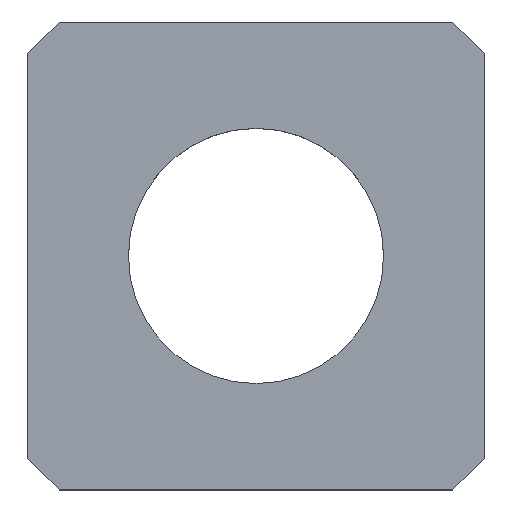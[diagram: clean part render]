
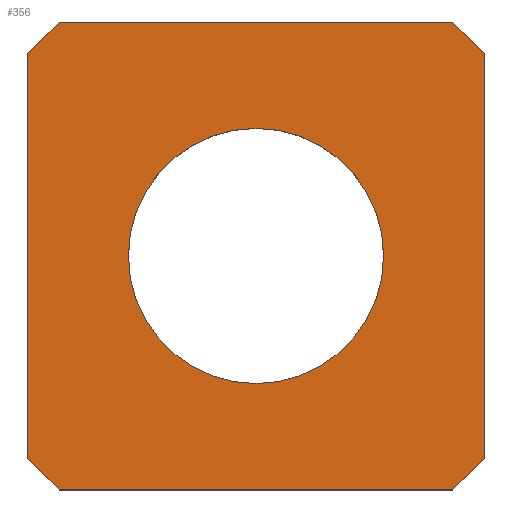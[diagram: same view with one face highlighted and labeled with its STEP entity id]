
A CAD part, top view. The second image highlights one B-rep face of the part: STEP entity #356.
In plain terms, the highlighted planar face has unit normal (0, 0, 1).
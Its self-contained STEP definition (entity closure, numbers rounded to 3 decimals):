
#11 = VECTOR ( 'NONE', #801, 1000. ) ;
#12 = VERTEX_POINT ( 'NONE', #57 ) ;
#14 = EDGE_CURVE ( 'NONE', #789, #930, #994, .T. ) ;
#43 = CARTESIAN_POINT ( 'NONE',  ( -20.25, 20.25, 6.5 ) ) ;
#51 = CARTESIAN_POINT ( 'NONE',  ( -18.5, 22., 6.5 ) ) ;
#55 = LINE ( 'NONE', #43, #458 ) ;
#57 = CARTESIAN_POINT ( 'NONE',  ( -18.5, -22., 6.5 ) ) ;
#81 = DIRECTION ( 'NONE',  ( 1., 0., 0. ) ) ;
#100 = DIRECTION ( 'NONE',  ( 0., 0., 1. ) ) ;
#111 = CARTESIAN_POINT ( 'NONE',  ( -21.5, 22., 6.5 ) ) ;
#118 = DIRECTION ( 'NONE',  ( -1., 0., 0. ) ) ;
#133 = VECTOR ( 'NONE', #253, 1000. ) ;
#140 = CARTESIAN_POINT ( 'NONE',  ( 21.5, -19., 6.5 ) ) ;
#164 = LINE ( 'NONE', #418, #133 ) ;
#172 = DIRECTION ( 'NONE',  ( 1., 0., 0. ) ) ;
#177 = CARTESIAN_POINT ( 'NONE',  ( 20.25, -20.25, 6.5 ) ) ;
#192 = LINE ( 'NONE', #851, #849 ) ;
#197 = CIRCLE ( 'NONE', #979, 12. ) ;
#204 = CARTESIAN_POINT ( 'NONE',  ( 0., 0., 6.5 ) ) ;
#225 = ORIENTED_EDGE ( 'NONE', *, *, #283, .T. ) ;
#246 = EDGE_CURVE ( 'NONE', #930, #789, #197, .T. ) ;
#253 = DIRECTION ( 'NONE',  ( 0., 1., 0. ) ) ;
#269 = DIRECTION ( 'NONE',  ( 0., -1., 0. ) ) ;
#275 = EDGE_CURVE ( 'NONE', #857, #451, #932, .T. ) ;
#283 = EDGE_CURVE ( 'NONE', #1053, #918, #999, .T. ) ;
#287 = DIRECTION ( 'NONE',  ( 0., 0., 1. ) ) ;
#295 = VECTOR ( 'NONE', #715, 1000. ) ;
#304 = EDGE_CURVE ( 'NONE', #534, #390, #192, .T. ) ;
#320 = CARTESIAN_POINT ( 'NONE',  ( 18.5, -22., 6.5 ) ) ;
#339 = EDGE_CURVE ( 'NONE', #390, #1053, #55, .T. ) ;
#348 = AXIS2_PLACEMENT_3D ( 'NONE', #861, #287, #450 ) ;
#356 = ADVANCED_FACE ( 'NONE', ( #455, #696 ), #436, .T. ) ;
#382 = CARTESIAN_POINT ( 'NONE',  ( 18.5, 22., 6.5 ) ) ;
#390 = VERTEX_POINT ( 'NONE', #51 ) ;
#418 = CARTESIAN_POINT ( 'NONE',  ( 21.5, 22., 6.5 ) ) ;
#430 = ORIENTED_EDGE ( 'NONE', *, *, #767, .T. ) ;
#436 = PLANE ( 'NONE',  #955 ) ;
#437 = ORIENTED_EDGE ( 'NONE', *, *, #14, .F. ) ;
#446 = VECTOR ( 'NONE', #269, 1000. ) ;
#448 = DIRECTION ( 'NONE',  ( 1., 0., 0. ) ) ;
#449 = CARTESIAN_POINT ( 'NONE',  ( 12., 0., 6.5 ) ) ;
#450 = DIRECTION ( 'NONE',  ( 1., 0., 0. ) ) ;
#451 = VERTEX_POINT ( 'NONE', #140 ) ;
#455 = FACE_OUTER_BOUND ( 'NONE', #611, .T. ) ;
#458 = VECTOR ( 'NONE', #535, 1000. ) ;
#479 = CARTESIAN_POINT ( 'NONE',  ( -21.5, -22., 6.5 ) ) ;
#508 = DIRECTION ( 'NONE',  ( 0.707, 0.707, 0. ) ) ;
#524 = DIRECTION ( 'NONE',  ( 0., 0., 1. ) ) ;
#534 = VERTEX_POINT ( 'NONE', #382 ) ;
#535 = DIRECTION ( 'NONE',  ( -0.707, -0.707, 0. ) ) ;
#541 = EDGE_CURVE ( 'NONE', #12, #857, #1054, .T. ) ;
#560 = CARTESIAN_POINT ( 'NONE',  ( 21.5, 19., 6.5 ) ) ;
#573 = EDGE_CURVE ( 'NONE', #918, #12, #892, .T. ) ;
#580 = ORIENTED_EDGE ( 'NONE', *, *, #573, .T. ) ;
#587 = ORIENTED_EDGE ( 'NONE', *, *, #275, .T. ) ;
#611 = EDGE_LOOP ( 'NONE', ( #766, #587, #768, #430, #963, #1025, #225, #580 ) ) ;
#617 = CARTESIAN_POINT ( 'NONE',  ( 20.25, 20.25, 6.5 ) ) ;
#661 = CARTESIAN_POINT ( 'NONE',  ( -12., 0., 6.5 ) ) ;
#696 = FACE_BOUND ( 'NONE', #916, .T. ) ;
#715 = DIRECTION ( 'NONE',  ( -0.707, 0.707, 0. ) ) ;
#766 = ORIENTED_EDGE ( 'NONE', *, *, #541, .T. ) ;
#767 = EDGE_CURVE ( 'NONE', #874, #534, #870, .T. ) ;
#768 = ORIENTED_EDGE ( 'NONE', *, *, #924, .T. ) ;
#773 = ORIENTED_EDGE ( 'NONE', *, *, #246, .F. ) ;
#789 = VERTEX_POINT ( 'NONE', #449 ) ;
#792 = VECTOR ( 'NONE', #81, 1000. ) ;
#795 = CARTESIAN_POINT ( 'NONE',  ( -21.5, 19., 6.5 ) ) ;
#801 = DIRECTION ( 'NONE',  ( 0.707, -0.707, 0. ) ) ;
#849 = VECTOR ( 'NONE', #118, 1000. ) ;
#851 = CARTESIAN_POINT ( 'NONE',  ( -21.5, 22., 6.5 ) ) ;
#857 = VERTEX_POINT ( 'NONE', #320 ) ;
#861 = CARTESIAN_POINT ( 'NONE',  ( 0., 0., 6.5 ) ) ;
#870 = LINE ( 'NONE', #617, #295 ) ;
#874 = VERTEX_POINT ( 'NONE', #560 ) ;
#892 = LINE ( 'NONE', #986, #11 ) ;
#916 = EDGE_LOOP ( 'NONE', ( #773, #437 ) ) ;
#918 = VERTEX_POINT ( 'NONE', #1066 ) ;
#924 = EDGE_CURVE ( 'NONE', #451, #874, #164, .T. ) ;
#925 = VECTOR ( 'NONE', #508, 1000. ) ;
#930 = VERTEX_POINT ( 'NONE', #661 ) ;
#932 = LINE ( 'NONE', #177, #925 ) ;
#955 = AXIS2_PLACEMENT_3D ( 'NONE', #204, #524, #448 ) ;
#963 = ORIENTED_EDGE ( 'NONE', *, *, #304, .T. ) ;
#979 = AXIS2_PLACEMENT_3D ( 'NONE', #1011, #100, #172 ) ;
#986 = CARTESIAN_POINT ( 'NONE',  ( -20.25, -20.25, 6.5 ) ) ;
#994 = CIRCLE ( 'NONE', #348, 12. ) ;
#999 = LINE ( 'NONE', #111, #446 ) ;
#1011 = CARTESIAN_POINT ( 'NONE',  ( 0., 0., 6.5 ) ) ;
#1025 = ORIENTED_EDGE ( 'NONE', *, *, #339, .T. ) ;
#1053 = VERTEX_POINT ( 'NONE', #795 ) ;
#1054 = LINE ( 'NONE', #479, #792 ) ;
#1066 = CARTESIAN_POINT ( 'NONE',  ( -21.5, -19., 6.5 ) ) ;
